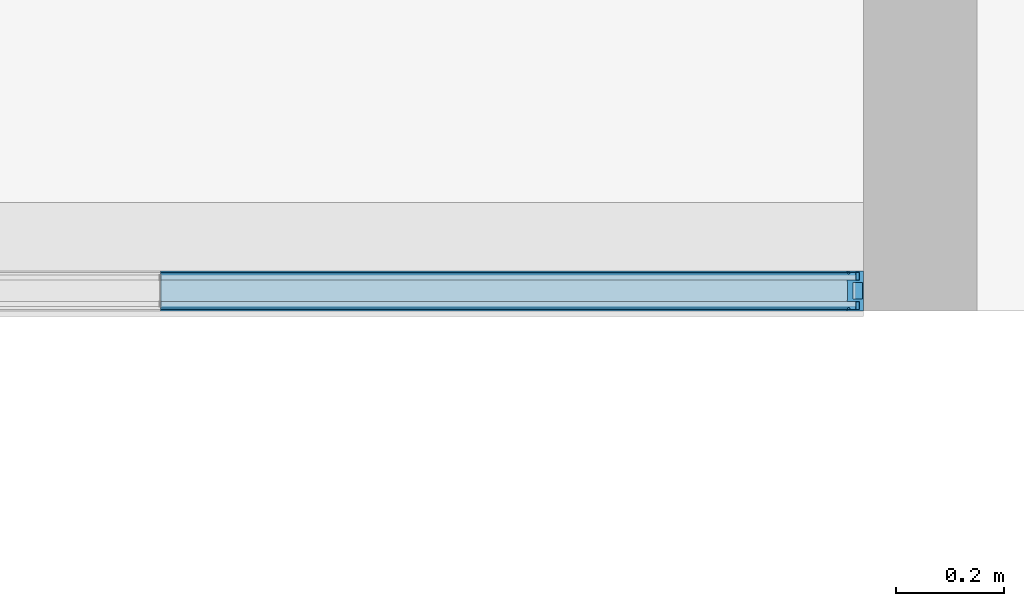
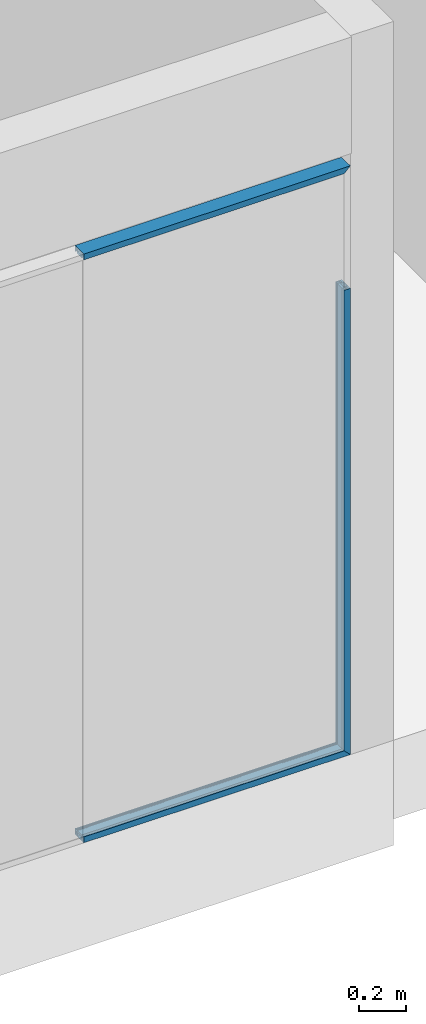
# One storey, part 46 of 387: 6 building element parts, 4 elements without a shape of their own.
"""IFC2X3 building model written with IfcOpenShell, lengths in millimetres."""

from ifc_helpers import new_model, entity, si_unit, converted_unit, derived_unit, money_unit, direction, frame, origin_with_axes, place, context, subcontext, project, spatial, faceted_brep, source, transform, mapped, material, type_object, element, aggregate, save


model = new_model("IFC2X3")

# Units and contexts
model_context = context("Model", 3, precision=0.01, world=origin_with_axes(), true_north=direction((0.0, 1.0)))
body_context = subcontext(model_context, "Body", "Model", "MODEL_VIEW")
ifc_project = project(units=[si_unit("LENGTHUNIT", "METRE", prefix="MILLI"), si_unit("AREAUNIT", "SQUARE_METRE"), si_unit("VOLUMEUNIT", "CUBIC_METRE"), converted_unit("PLANEANGLEUNIT", "DEGREE", entity("IfcPlaneAngleMeasure", 0.0174532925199), si_unit("PLANEANGLEUNIT", "RADIAN"), dimensions=[0, 0, 0, 0, 0, 0, 0]), si_unit("SOLIDANGLEUNIT", "STERADIAN"), money_unit("EUR"), converted_unit("TIMEUNIT", "Year", entity("IfcTimeMeasure", 31556926.0), si_unit("TIMEUNIT", "SECOND"), dimensions=[0, 0, 1, 0, 0, 0, 0]), si_unit("MASSUNIT", "GRAM", prefix="KILO"), si_unit("THERMODYNAMICTEMPERATUREUNIT", "DEGREE_CELSIUS"), si_unit("LUMINOUSINTENSITYUNIT", "LUMEN"), si_unit("ENERGYUNIT", "JOULE", prefix="MEGA"), derived_unit("THERMALCONDUCTANCEUNIT", [(si_unit("POWERUNIT", "WATT"), 1), (si_unit("LENGTHUNIT", "METRE"), -1), (si_unit("THERMODYNAMICTEMPERATUREUNIT", "KELVIN"), -1)]), derived_unit("SPECIFICHEATCAPACITYUNIT", [(si_unit("ENERGYUNIT", "JOULE"), 1), (si_unit("MASSUNIT", "GRAM", prefix="KILO"), -1), (si_unit("THERMODYNAMICTEMPERATUREUNIT", "KELVIN"), -1)]), derived_unit("MASSDENSITYUNIT", [(si_unit("MASSUNIT", "GRAM", prefix="KILO"), 1), (si_unit("VOLUMEUNIT", "CUBIC_METRE"), -1)])], contexts=[model_context])

# Site, building, storey
site_placement = place(None, origin_with_axes())
site = spatial("IfcSite", under=ifc_project, at=site_placement, Name="Puškini 31, Narva", CompositionType="ELEMENT")
building_placement = place(site_placement, origin_with_axes())
building = spatial("IfcBuilding", under=site, at=building_placement, Name="Narva Riigigümnaasium", CompositionType="ELEMENT")
storey_placement = place(building_placement, frame((0.0, 0.0, 2640.0), z_axis=(0.0, 0.0, 1.0), x_axis=(1.0, 0.0, 0.0)))
storey = spatial("IfcBuildingStorey", under=building, at=storey_placement, Name="2.korrus +2.64", CompositionType="ELEMENT", Elevation=2640.0)

# Curtain wall, members, building element parts
curtain_wall_type = type_object("IfcCurtainWallType", Name="Curtain Wall Type", PredefinedType="NOTDEFINED")
curtain_wall_placement = place(storey_placement, frame((44841.2500007, 163537.000002, -0.000124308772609), z_axis=(0.0, 0.0, 1.0), x_axis=(1.0, 0.0, 0.0)))
curtain_wall = element("IfcCurtainWall", 1, at=curtain_wall_placement, inside=storey, type_object=curtain_wall_type, Name="G-SKLF-49")
member_type = type_object("IfcMemberType", Name="Boundary Frame 30 x 37", PredefinedType="MULLION")
member_1_placement = place(curtain_wall_placement, frame((648.750002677, 0.0, 0.0), z_axis=(0.0, 0.0, 1.0), x_axis=(-1.0, 0.0, 0.0)))
member_1 = element("IfcMember", 2, at=member_1_placement, type_object=member_type, Name="G-SKLF-65-raam", ObjectType="MULLION")
ifc_material_1 = material(Name="Klaasvill")
shared_shape_1 = source(origin_with_axes(), body_context, "Body", "Brep", [
    faceted_brep([(-13.8499999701, 20.000000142, 13.8499999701), (-7.49999990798, 20.000000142, 7.49999990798), (-7.49999990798, 20.000000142, 2400.00000477), (-13.8499999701, 20.000000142, 2400.00000477), (-13.8499999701, 34.0161444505, 13.8499999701), (-7.49999990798, 34.0161444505, 7.49999990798), (-7.49999990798, 34.0161444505, 2400.00000477), (-13.8499999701, 34.0161444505, 2400.00000477)], [[[0, 1, 2, 3]], [[1, 0, 4, 5]], [[1, 5, 6, 2]], [[2, 6, 7, 3]], [[4, 0, 3, 7]], [[5, 4, 7, 6]]]),
    faceted_brep([(-25.004489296, 32.0307503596, 25.004489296), (-24.987414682, 34.0161444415, 24.987414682), (-24.987414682, 34.0161444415, 2400.00000477), (-25.004489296, 32.0307503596, 2400.00000477), (-25.742237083, 31.2930025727, 25.742237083), (-26.7500193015, 31.0229681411, 26.7500193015), (-27.75780152, 31.2930025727, 27.75780152), (-28.4955493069, 32.0307503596, 28.4955493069), (-28.7655837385, 33.0385325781, 28.7655837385), (-28.5126239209, 34.0161444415, 28.5126239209), (-28.5126239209, 34.0161444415, 2400.00000477), (-28.7655837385, 33.0385325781, 2400.00000477), (-28.4955493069, 32.0307503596, 2400.00000477), (-27.75780152, 31.2930025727, 2400.00000477), (-26.7500193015, 31.0229681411, 2400.00000477), (-25.742237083, 31.2930025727, 2400.00000477)], [[[0, 1, 2, 3]], [[1, 0, 4, 5, 6, 7, 8, 9]], [[1, 9, 10, 2]], [[2, 10, 11, 12, 13, 14, 15, 3]], [[4, 0, 3, 15]], [[5, 4, 15, 14]], [[6, 5, 14, 13]], [[7, 6, 13, 12]], [[8, 7, 12, 11]], [[9, 8, 11, 10]]]),
    faceted_brep([(-7.49999990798, -34.0161445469, 7.49999990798), (-7.49999990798, -19.9999997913, 7.49999990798), (-7.49999990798, -19.9999997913, 2400.00000477), (-7.49999990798, -34.0161445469, 2400.00000477), (-13.8499999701, -34.0161445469, 13.8499999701), (-13.8499999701, -19.9999997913, 13.8499999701), (-13.8499999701, -19.9999997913, 2400.00000477), (-13.8499999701, -34.0161445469, 2400.00000477)], [[[0, 1, 2, 3]], [[1, 0, 4, 5]], [[1, 5, 6, 2]], [[2, 6, 7, 3]], [[4, 0, 3, 7]], [[5, 4, 7, 6]]]),
    faceted_brep([(-24.987414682, -34.0161444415, 24.987414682), (-25.004489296, -32.0307503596, 25.004489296), (-25.004489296, -32.0307503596, 2400.00000477), (-24.987414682, -34.0161444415, 2400.00000477), (-28.5126239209, -34.0161444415, 28.5126239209), (-28.7655837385, -33.0385325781, 28.7655837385), (-28.4955493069, -32.0307503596, 28.4955493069), (-27.75780152, -31.2930025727, 27.75780152), (-26.7500193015, -31.0229681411, 26.7500193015), (-25.742237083, -31.2930025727, 25.742237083), (-25.742237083, -31.2930025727, 2400.00000477), (-26.7500193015, -31.0229681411, 2400.00000477), (-27.75780152, -31.2930025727, 2400.00000477), (-28.4955493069, -32.0307503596, 2400.00000477), (-28.7655837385, -33.0385325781, 2400.00000477), (-28.5126239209, -34.0161444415, 2400.00000477)], [[[0, 1, 2, 3]], [[1, 0, 4, 5, 6, 7, 8, 9]], [[1, 9, 10, 2]], [[2, 10, 11, 12, 13, 14, 15, 3]], [[4, 0, 3, 15]], [[5, 4, 15, 14]], [[6, 5, 14, 13]], [[7, 6, 13, 12]], [[8, 7, 12, 11]], [[9, 8, 11, 10]]]),
])
building_element_part_1_placement = place(member_1_placement, origin_with_axes())
building_element_part_1 = element("IfcBuildingElementPart", 3, at=building_element_part_1_placement, material=ifc_material_1, Name="Klaasvill", context=body_context, shape_type="MappedRepresentation", body=[
    mapped(shared_shape_1, transform((0.0, 0.0, 0.0), x_axis=(-1.0, 0.0, 0.0), y_axis=(0.0, -1.0, 0.0), z_axis=(0.0, 0.0, 1.0))),
])
ifc_material_2 = material(Name="Teras RAL7012")
shared_shape_2 = source(origin_with_axes(), body_context, "Body", "Brep", [
    faceted_brep([(-29.5999996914, -17.0000000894, 29.5999996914), (0.0, -17.0000000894, 0.0), (0.0, -17.0000000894, 2400.00000477), (-29.5999996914, -17.0000000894, 2400.00000477), (-29.5999996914, 17.0000000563, 29.5999996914), (0.0, 17.0000000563, 0.0), (-1.9999999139, 15.0000001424, 1.9999999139), (-18.7999996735, 15.0000001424, 18.7999996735), (-18.7999996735, -15.0000001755, 18.7999996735), (-1.9999999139, -15.0000001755, 1.9999999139), (0.0, 17.0000000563, 2400.00000477), (-29.5999996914, 17.0000000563, 2400.00000477), (-1.9999999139, 15.0000001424, 2400.00000477), (-1.9999999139, -15.0000001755, 2400.00000477), (-18.7999996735, -15.0000001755, 2400.00000477), (-18.7999996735, 15.0000001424, 2400.00000477)], [[[0, 1, 2, 3]], [[1, 0, 4, 5], [6, 7, 8, 9]], [[1, 5, 10, 2]], [[2, 10, 11, 3], [12, 13, 14, 15]], [[4, 0, 3, 11]], [[5, 4, 11, 10]], [[7, 6, 12, 15]], [[8, 7, 15, 14]], [[9, 8, 14, 13]], [[6, 9, 13, 12]]]),
    faceted_brep([(-29.5999996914, 17.0000000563, 29.5999996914), (0.0, 17.0, 0.0), (0.0, 17.0, 2400.00000477), (-29.5999996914, 17.0000000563, 2400.00000477), (-30.0000193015, 17.0, 30.0000193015), (-30.0000193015, 20.0, 30.0000193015), (-13.8499999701, 20.000000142, 13.8499999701), (-7.49999999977, 20.0, 7.49999999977), (-7.49999999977, 34.0161444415, 7.49999999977), (-13.8499999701, 34.0161444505, 13.8499999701), (-24.987414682, 34.0161444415, 24.987414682), (-28.5126239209, 34.0161444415, 28.5126239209), (-30.0000193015, 34.0161444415, 30.0000193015), (-30.0000193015, 37.0, 30.0000193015), (0.0, 37.0, 0.0), (0.0, 37.0, 2400.00000477), (-30.0000193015, 37.0, 2400.00000477), (-30.0000193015, 34.0161444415, 2400.00000477), (-28.5126239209, 34.0161444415, 2400.00000477), (-24.987414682, 34.0161444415, 2400.00000477), (-13.8499999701, 34.0161444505, 2400.00000477), (-7.49999999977, 34.0161444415, 2400.00000477), (-7.49999999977, 20.0, 2400.00000477), (-13.8499999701, 20.000000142, 2400.00000477), (-30.0000193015, 20.0, 2400.00000477), (-30.0000193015, 17.0, 2400.00000477)], [[[0, 1, 2, 3]], [[1, 0, 4, 5, 6, 7, 8, 9, 10, 11, 12, 13, 14]], [[1, 14, 15, 2]], [[2, 15, 16, 17, 18, 19, 20, 21, 22, 23, 24, 25, 3]], [[4, 0, 3, 25]], [[5, 4, 25, 24]], [[6, 5, 24, 23]], [[7, 6, 23, 22]], [[8, 7, 22, 21]], [[9, 8, 21, 20]], [[10, 9, 20, 19]], [[11, 10, 19, 18]], [[12, 11, 18, 17]], [[13, 12, 17, 16]], [[14, 13, 16, 15]]]),
    faceted_brep([(0.0, -37.0, 0.0), (0.0, -17.0, 0.0), (0.0, -17.0, 2400.00000477), (0.0, -37.0, 2400.00000477), (-30.0000193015, -37.0, 30.0000193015), (-30.0000193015, -34.0161444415, 30.0000193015), (-28.5126239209, -34.0161444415, 28.5126239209), (-24.987414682, -34.0161444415, 24.987414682), (-13.8499999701, -34.0161445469, 13.8499999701), (-7.49999999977, -34.0161444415, 7.49999999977), (-7.49999999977, -20.0, 7.49999999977), (-13.8499999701, -19.9999997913, 13.8499999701), (-30.0000193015, -20.0, 30.0000193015), (-30.0000193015, -17.0, 30.0000193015), (-29.5999996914, -17.0000000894, 29.5999996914), (-29.5999996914, -17.0000000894, 2400.00000477), (-30.0000193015, -17.0, 2400.00000477), (-30.0000193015, -20.0, 2400.00000477), (-13.8499999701, -19.9999997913, 2400.00000477), (-7.49999999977, -20.0, 2400.00000477), (-7.49999999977, -34.0161444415, 2400.00000477), (-13.8499999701, -34.0161445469, 2400.00000477), (-24.987414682, -34.0161444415, 2400.00000477), (-28.5126239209, -34.0161444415, 2400.00000477), (-30.0000193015, -34.0161444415, 2400.00000477), (-30.0000193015, -37.0, 2400.00000477)], [[[0, 1, 2, 3]], [[1, 0, 4, 5, 6, 7, 8, 9, 10, 11, 12, 13, 14]], [[1, 14, 15, 2]], [[2, 15, 16, 17, 18, 19, 20, 21, 22, 23, 24, 25, 3]], [[4, 0, 3, 25]], [[5, 4, 25, 24]], [[6, 5, 24, 23]], [[7, 6, 23, 22]], [[8, 7, 22, 21]], [[9, 8, 21, 20]], [[10, 9, 20, 19]], [[11, 10, 19, 18]], [[12, 11, 18, 17]], [[13, 12, 17, 16]], [[14, 13, 16, 15]]]),
])
building_element_part_2_placement = place(member_1_placement, origin_with_axes())
building_element_part_2 = element("IfcBuildingElementPart", 4, at=building_element_part_2_placement, material=ifc_material_2, Name="Teras RAL7012", context=body_context, shape_type="MappedRepresentation", body=[
    mapped(shared_shape_2, transform((0.0, 0.0, 0.0), x_axis=(-1.0, 0.0, 0.0), y_axis=(0.0, -1.0, 0.0), z_axis=(0.0, 0.0, 1.0))),
])
aggregate(member_1, [building_element_part_1, building_element_part_2])
member_2_placement = place(curtain_wall_placement, frame((-648.750002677, 0.0, 0.0), z_axis=(1.0, 0.0, 0.0), x_axis=(0.0, 0.0, 1.0)))
member_2 = element("IfcMember", 5, at=member_2_placement, type_object=member_type, Name="G-SKLF-64-raam", ObjectType="MULLION")
shared_shape_3 = source(origin_with_axes(), body_context, "Body", "Brep", [
    faceted_brep([(-7.49999990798, 20.000000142, 0.0), (-7.49999990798, 20.000000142, 1290.00000009), (-13.8499999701, 20.000000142, 1283.65000003), (-13.8499999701, 20.000000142, 0.0), (-7.49999990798, 34.0161444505, 0.0), (-7.49999990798, 34.0161444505, 1290.00000009), (-13.8499999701, 34.0161444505, 1283.65000003), (-13.8499999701, 34.0161444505, 0.0)], [[[0, 1, 2, 3]], [[4, 5, 1, 0]], [[1, 5, 6, 2]], [[3, 2, 6, 7]], [[0, 3, 7, 4]], [[7, 6, 5, 4]]]),
    faceted_brep([(-24.987414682, 34.0161444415, 0.0), (-24.987414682, 34.0161444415, 1272.51258532), (-25.004489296, 32.0307503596, 1272.4955107), (-25.004489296, 32.0307503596, 0.0), (-28.5126239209, 34.0161444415, 0.0), (-28.5126239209, 34.0161444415, 1268.98737608), (-28.7655837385, 33.0385325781, 1268.73441626), (-28.4955493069, 32.0307503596, 1269.00445069), (-27.75780152, 31.2930025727, 1269.74219848), (-26.7500193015, 31.0229681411, 1270.7499807), (-25.742237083, 31.2930025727, 1271.75776292), (-25.742237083, 31.2930025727, 0.0), (-26.7500193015, 31.0229681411, 0.0), (-27.75780152, 31.2930025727, 0.0), (-28.4955493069, 32.0307503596, 0.0), (-28.7655837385, 33.0385325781, 0.0)], [[[0, 1, 2, 3]], [[4, 5, 1, 0]], [[1, 5, 6, 7, 8, 9, 10, 2]], [[3, 2, 10, 11]], [[0, 3, 11, 12, 13, 14, 15, 4]], [[15, 6, 5, 4]], [[14, 7, 6, 15]], [[13, 8, 7, 14]], [[12, 9, 8, 13]], [[11, 10, 9, 12]]]),
    faceted_brep([(-7.49999990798, -19.9999997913, 0.0), (-7.49999990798, -19.9999997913, 1290.00000009), (-7.49999990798, -34.0161445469, 1290.00000009), (-7.49999990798, -34.0161445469, 0.0), (-13.8499999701, -19.9999997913, 0.0), (-13.8499999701, -19.9999997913, 1283.65000003), (-13.8499999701, -34.0161445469, 1283.65000003), (-13.8499999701, -34.0161445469, 0.0)], [[[0, 1, 2, 3]], [[4, 5, 1, 0]], [[1, 5, 6, 2]], [[3, 2, 6, 7]], [[0, 3, 7, 4]], [[7, 6, 5, 4]]]),
    faceted_brep([(-25.004489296, -32.0307503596, 0.0), (-25.004489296, -32.0307503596, 1272.4955107), (-24.987414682, -34.0161444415, 1272.51258532), (-24.987414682, -34.0161444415, 0.0), (-25.742237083, -31.2930025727, 0.0), (-25.742237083, -31.2930025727, 1271.75776292), (-26.7500193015, -31.0229681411, 1270.7499807), (-27.75780152, -31.2930025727, 1269.74219848), (-28.4955493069, -32.0307503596, 1269.00445069), (-28.7655837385, -33.0385325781, 1268.73441626), (-28.5126239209, -34.0161444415, 1268.98737608), (-28.5126239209, -34.0161444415, 0.0), (-28.7655837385, -33.0385325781, 0.0), (-28.4955493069, -32.0307503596, 0.0), (-27.75780152, -31.2930025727, 0.0), (-26.7500193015, -31.0229681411, 0.0)], [[[0, 1, 2, 3]], [[4, 5, 1, 0]], [[1, 5, 6, 7, 8, 9, 10, 2]], [[3, 2, 10, 11]], [[0, 3, 11, 12, 13, 14, 15, 4]], [[15, 6, 5, 4]], [[14, 7, 6, 15]], [[13, 8, 7, 14]], [[12, 9, 8, 13]], [[11, 10, 9, 12]]]),
])
building_element_part_3_placement = place(member_2_placement, origin_with_axes())
building_element_part_3 = element("IfcBuildingElementPart", 6, at=building_element_part_3_placement, material=ifc_material_1, Name="Klaasvill", context=body_context, shape_type="MappedRepresentation", body=[
    mapped(shared_shape_3, transform((0.0, 0.0, 0.0), x_axis=(-1.0, 0.0, 0.0), y_axis=(0.0, -1.0, 0.0), z_axis=(0.0, 0.0, 1.0))),
])
shared_shape_4 = source(origin_with_axes(), body_context, "Body", "Brep", [
    faceted_brep([(0.0, -17.0000000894, 0.0), (0.0, -17.0000000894, 1297.5), (-29.5999996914, -17.0000000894, 1267.90000031), (-29.5999996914, -17.0000000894, 0.0), (0.0, 17.0000000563, 0.0), (0.0, 17.0000000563, 1297.5), (-29.5999996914, 17.0000000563, 1267.90000031), (-1.9999999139, 15.0000001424, 1295.50000009), (-1.9999999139, -15.0000001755, 1295.50000009), (-18.7999996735, -15.0000001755, 1278.70000033), (-18.7999996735, 15.0000001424, 1278.70000033), (-29.5999996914, 17.0000000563, 0.0), (-1.9999999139, 15.0000001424, 0.0), (-18.7999996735, 15.0000001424, 0.0), (-18.7999996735, -15.0000001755, 0.0), (-1.9999999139, -15.0000001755, 0.0)], [[[0, 1, 2, 3]], [[4, 5, 1, 0]], [[1, 5, 6, 2], [7, 8, 9, 10]], [[3, 2, 6, 11]], [[0, 3, 11, 4], [12, 13, 14, 15]], [[11, 6, 5, 4]], [[15, 8, 7, 12]], [[14, 9, 8, 15]], [[13, 10, 9, 14]], [[12, 7, 10, 13]]]),
    faceted_brep([(0.0, 17.0, 0.0), (0.0, 17.0, 1297.5), (-29.5999996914, 17.0000000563, 1267.90000031), (-29.5999996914, 17.0000000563, 0.0), (0.0, 37.0, 0.0), (0.0, 37.0, 1297.5), (-30.0000193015, 37.0, 1267.4999807), (-30.0000193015, 34.0161444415, 1267.4999807), (-28.5126239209, 34.0161444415, 1268.98737608), (-24.987414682, 34.0161444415, 1272.51258532), (-13.8499999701, 34.0161444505, 1283.65000003), (-7.49999999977, 34.0161444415, 1290.0), (-7.49999999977, 20.0, 1290.0), (-13.8499999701, 20.000000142, 1283.65000003), (-30.0000193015, 20.0, 1267.4999807), (-30.0000193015, 17.0, 1267.4999807), (-30.0000193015, 17.0, 0.0), (-30.0000193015, 20.0, 0.0), (-13.8499999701, 20.000000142, 0.0), (-7.49999999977, 20.0, 0.0), (-7.49999999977, 34.0161444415, 0.0), (-13.8499999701, 34.0161444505, 0.0), (-24.987414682, 34.0161444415, 0.0), (-28.5126239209, 34.0161444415, 0.0), (-30.0000193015, 34.0161444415, 0.0), (-30.0000193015, 37.0, 0.0)], [[[0, 1, 2, 3]], [[4, 5, 1, 0]], [[1, 5, 6, 7, 8, 9, 10, 11, 12, 13, 14, 15, 2]], [[3, 2, 15, 16]], [[0, 3, 16, 17, 18, 19, 20, 21, 22, 23, 24, 25, 4]], [[25, 6, 5, 4]], [[24, 7, 6, 25]], [[23, 8, 7, 24]], [[22, 9, 8, 23]], [[21, 10, 9, 22]], [[20, 11, 10, 21]], [[19, 12, 11, 20]], [[18, 13, 12, 19]], [[17, 14, 13, 18]], [[16, 15, 14, 17]]]),
    faceted_brep([(0.0, -17.0, 0.0), (0.0, -17.0, 1297.5), (0.0, -37.0, 1297.5), (0.0, -37.0, 0.0), (-29.5999996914, -17.0000000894, 0.0), (-29.5999996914, -17.0000000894, 1267.90000031), (-30.0000193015, -17.0, 1267.4999807), (-30.0000193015, -20.0, 1267.4999807), (-13.8499999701, -19.9999997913, 1283.65000003), (-7.49999999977, -20.0, 1290.0), (-7.49999999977, -34.0161444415, 1290.0), (-13.8499999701, -34.0161445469, 1283.65000003), (-24.987414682, -34.0161444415, 1272.51258532), (-28.5126239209, -34.0161444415, 1268.98737608), (-30.0000193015, -34.0161444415, 1267.4999807), (-30.0000193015, -37.0, 1267.4999807), (-30.0000193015, -37.0, 0.0), (-30.0000193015, -34.0161444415, 0.0), (-28.5126239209, -34.0161444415, 0.0), (-24.987414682, -34.0161444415, 0.0), (-13.8499999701, -34.0161445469, 0.0), (-7.49999999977, -34.0161444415, 0.0), (-7.49999999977, -20.0, 0.0), (-13.8499999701, -19.9999997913, 0.0), (-30.0000193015, -20.0, 0.0), (-30.0000193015, -17.0, 0.0)], [[[0, 1, 2, 3]], [[4, 5, 1, 0]], [[1, 5, 6, 7, 8, 9, 10, 11, 12, 13, 14, 15, 2]], [[3, 2, 15, 16]], [[0, 3, 16, 17, 18, 19, 20, 21, 22, 23, 24, 25, 4]], [[25, 6, 5, 4]], [[24, 7, 6, 25]], [[23, 8, 7, 24]], [[22, 9, 8, 23]], [[21, 10, 9, 22]], [[20, 11, 10, 21]], [[19, 12, 11, 20]], [[18, 13, 12, 19]], [[17, 14, 13, 18]], [[16, 15, 14, 17]]]),
])
building_element_part_4_placement = place(member_2_placement, origin_with_axes())
building_element_part_4 = element("IfcBuildingElementPart", 7, at=building_element_part_4_placement, material=ifc_material_2, Name="Teras RAL7012", context=body_context, shape_type="MappedRepresentation", body=[
    mapped(shared_shape_4, transform((0.0, 0.0, 0.0), x_axis=(-1.0, 0.0, 0.0), y_axis=(0.0, -1.0, 0.0), z_axis=(0.0, 0.0, 1.0))),
])
aggregate(member_2, [building_element_part_3, building_element_part_4])
member_3_placement = place(curtain_wall_placement, frame((648.750002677, 0.0, 3030.00000658), z_axis=(-1.0, 0.0, 0.0), x_axis=(0.0, 0.0, -1.0)))
member_3 = element("IfcMember", 8, at=member_3_placement, type_object=member_type, Name="G-SKLF-67-raam", ObjectType="MULLION")
aggregate(curtain_wall, [member_3, member_1, member_2])
shared_shape_5 = source(origin_with_axes(), body_context, "Body", "Brep", [
    faceted_brep([(-13.8499999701, 20.000000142, 13.8499999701), (-7.49999990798, 20.000000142, 7.49999990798), (-7.49999990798, 20.000000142, 1297.50000535), (-13.8499999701, 20.000000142, 1297.50000535), (-13.8499999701, 34.0161444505, 13.8499999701), (-7.49999990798, 34.0161444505, 7.49999990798), (-7.49999990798, 34.0161444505, 1297.50000535), (-13.8499999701, 34.0161444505, 1297.50000535)], [[[0, 1, 2, 3]], [[1, 0, 4, 5]], [[1, 5, 6, 2]], [[2, 6, 7, 3]], [[4, 0, 3, 7]], [[5, 4, 7, 6]]]),
    faceted_brep([(-25.004489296, 32.0307503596, 25.004489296), (-24.987414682, 34.0161444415, 24.987414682), (-24.987414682, 34.0161444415, 1297.50000535), (-25.004489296, 32.0307503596, 1297.50000535), (-25.742237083, 31.2930025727, 25.742237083), (-26.7500193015, 31.0229681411, 26.7500193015), (-27.75780152, 31.2930025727, 27.75780152), (-28.4955493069, 32.0307503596, 28.4955493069), (-28.7655837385, 33.0385325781, 28.7655837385), (-28.5126239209, 34.0161444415, 28.5126239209), (-28.5126239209, 34.0161444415, 1297.50000535), (-28.7655837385, 33.0385325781, 1297.50000535), (-28.4955493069, 32.0307503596, 1297.50000535), (-27.75780152, 31.2930025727, 1297.50000535), (-26.7500193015, 31.0229681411, 1297.50000535), (-25.742237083, 31.2930025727, 1297.50000535)], [[[0, 1, 2, 3]], [[1, 0, 4, 5, 6, 7, 8, 9]], [[1, 9, 10, 2]], [[2, 10, 11, 12, 13, 14, 15, 3]], [[4, 0, 3, 15]], [[5, 4, 15, 14]], [[6, 5, 14, 13]], [[7, 6, 13, 12]], [[8, 7, 12, 11]], [[9, 8, 11, 10]]]),
    faceted_brep([(-7.49999990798, -34.0161445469, 7.49999990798), (-7.49999990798, -19.9999997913, 7.49999990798), (-7.49999990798, -19.9999997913, 1297.50000535), (-7.49999990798, -34.0161445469, 1297.50000535), (-13.8499999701, -34.0161445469, 13.8499999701), (-13.8499999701, -19.9999997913, 13.8499999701), (-13.8499999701, -19.9999997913, 1297.50000535), (-13.8499999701, -34.0161445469, 1297.50000535)], [[[0, 1, 2, 3]], [[1, 0, 4, 5]], [[1, 5, 6, 2]], [[2, 6, 7, 3]], [[4, 0, 3, 7]], [[5, 4, 7, 6]]]),
    faceted_brep([(-24.987414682, -34.0161444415, 24.987414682), (-25.004489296, -32.0307503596, 25.004489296), (-25.004489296, -32.0307503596, 1297.50000535), (-24.987414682, -34.0161444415, 1297.50000535), (-28.5126239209, -34.0161444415, 28.5126239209), (-28.7655837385, -33.0385325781, 28.7655837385), (-28.4955493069, -32.0307503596, 28.4955493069), (-27.75780152, -31.2930025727, 27.75780152), (-26.7500193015, -31.0229681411, 26.7500193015), (-25.742237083, -31.2930025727, 25.742237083), (-25.742237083, -31.2930025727, 1297.50000535), (-26.7500193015, -31.0229681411, 1297.50000535), (-27.75780152, -31.2930025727, 1297.50000535), (-28.4955493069, -32.0307503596, 1297.50000535), (-28.7655837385, -33.0385325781, 1297.50000535), (-28.5126239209, -34.0161444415, 1297.50000535)], [[[0, 1, 2, 3]], [[1, 0, 4, 5, 6, 7, 8, 9]], [[1, 9, 10, 2]], [[2, 10, 11, 12, 13, 14, 15, 3]], [[4, 0, 3, 15]], [[5, 4, 15, 14]], [[6, 5, 14, 13]], [[7, 6, 13, 12]], [[8, 7, 12, 11]], [[9, 8, 11, 10]]]),
])
building_element_part_5_placement = place(member_3_placement, origin_with_axes())
building_element_part_5 = element("IfcBuildingElementPart", 9, at=building_element_part_5_placement, material=ifc_material_1, Name="Klaasvill", context=body_context, shape_type="MappedRepresentation", body=[
    mapped(shared_shape_5, transform((0.0, 0.0, 0.0), x_axis=(-1.0, 0.0, 0.0), y_axis=(0.0, -1.0, 0.0), z_axis=(0.0, 0.0, 1.0))),
])
shared_shape_6 = source(origin_with_axes(), body_context, "Body", "Brep", [
    faceted_brep([(-29.5999996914, -17.0000000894, 29.5999996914), (0.0, -17.0000000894, 0.0), (0.0, -17.0000000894, 1297.50000535), (-29.5999996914, -17.0000000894, 1297.50000535), (-29.5999996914, 17.0000000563, 29.5999996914), (0.0, 17.0000000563, 0.0), (-1.9999999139, 15.0000001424, 1.9999999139), (-18.7999996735, 15.0000001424, 18.7999996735), (-18.7999996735, -15.0000001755, 18.7999996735), (-1.9999999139, -15.0000001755, 1.9999999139), (0.0, 17.0000000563, 1297.50000535), (-29.5999996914, 17.0000000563, 1297.50000535), (-1.9999999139, 15.0000001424, 1297.50000535), (-1.9999999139, -15.0000001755, 1297.50000535), (-18.7999996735, -15.0000001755, 1297.50000535), (-18.7999996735, 15.0000001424, 1297.50000535)], [[[0, 1, 2, 3]], [[1, 0, 4, 5], [6, 7, 8, 9]], [[1, 5, 10, 2]], [[2, 10, 11, 3], [12, 13, 14, 15]], [[4, 0, 3, 11]], [[5, 4, 11, 10]], [[7, 6, 12, 15]], [[8, 7, 15, 14]], [[9, 8, 14, 13]], [[6, 9, 13, 12]]]),
    faceted_brep([(-29.5999996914, 17.0000000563, 29.5999996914), (0.0, 17.0, 0.0), (0.0, 17.0, 1297.50000535), (-29.5999996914, 17.0000000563, 1297.50000535), (-30.0000193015, 17.0, 30.0000193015), (-30.0000193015, 20.0, 30.0000193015), (-13.8499999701, 20.000000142, 13.8499999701), (-7.49999999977, 20.0, 7.49999999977), (-7.49999999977, 34.0161444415, 7.49999999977), (-13.8499999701, 34.0161444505, 13.8499999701), (-24.987414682, 34.0161444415, 24.987414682), (-28.5126239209, 34.0161444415, 28.5126239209), (-30.0000193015, 34.0161444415, 30.0000193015), (-30.0000193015, 37.0, 30.0000193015), (0.0, 37.0, 0.0), (0.0, 37.0, 1297.50000535), (-30.0000193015, 37.0, 1297.50000535), (-30.0000193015, 34.0161444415, 1297.50000535), (-28.5126239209, 34.0161444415, 1297.50000535), (-24.987414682, 34.0161444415, 1297.50000535), (-13.8499999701, 34.0161444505, 1297.50000535), (-7.49999999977, 34.0161444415, 1297.50000535), (-7.49999999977, 20.0, 1297.50000535), (-13.8499999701, 20.000000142, 1297.50000535), (-30.0000193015, 20.0, 1297.50000535), (-30.0000193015, 17.0, 1297.50000535)], [[[0, 1, 2, 3]], [[1, 0, 4, 5, 6, 7, 8, 9, 10, 11, 12, 13, 14]], [[1, 14, 15, 2]], [[2, 15, 16, 17, 18, 19, 20, 21, 22, 23, 24, 25, 3]], [[4, 0, 3, 25]], [[5, 4, 25, 24]], [[6, 5, 24, 23]], [[7, 6, 23, 22]], [[8, 7, 22, 21]], [[9, 8, 21, 20]], [[10, 9, 20, 19]], [[11, 10, 19, 18]], [[12, 11, 18, 17]], [[13, 12, 17, 16]], [[14, 13, 16, 15]]]),
    faceted_brep([(0.0, -37.0, 0.0), (0.0, -17.0, 0.0), (0.0, -17.0, 1297.50000535), (0.0, -37.0, 1297.50000535), (-30.0000193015, -37.0, 30.0000193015), (-30.0000193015, -34.0161444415, 30.0000193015), (-28.5126239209, -34.0161444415, 28.5126239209), (-24.987414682, -34.0161444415, 24.987414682), (-13.8499999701, -34.0161445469, 13.8499999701), (-7.49999999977, -34.0161444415, 7.49999999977), (-7.49999999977, -20.0, 7.49999999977), (-13.8499999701, -19.9999997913, 13.8499999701), (-30.0000193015, -20.0, 30.0000193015), (-30.0000193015, -17.0, 30.0000193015), (-29.5999996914, -17.0000000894, 29.5999996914), (-29.5999996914, -17.0000000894, 1297.50000535), (-30.0000193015, -17.0, 1297.50000535), (-30.0000193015, -20.0, 1297.50000535), (-13.8499999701, -19.9999997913, 1297.50000535), (-7.49999999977, -20.0, 1297.50000535), (-7.49999999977, -34.0161444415, 1297.50000535), (-13.8499999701, -34.0161445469, 1297.50000535), (-24.987414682, -34.0161444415, 1297.50000535), (-28.5126239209, -34.0161444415, 1297.50000535), (-30.0000193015, -34.0161444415, 1297.50000535), (-30.0000193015, -37.0, 1297.50000535)], [[[0, 1, 2, 3]], [[1, 0, 4, 5, 6, 7, 8, 9, 10, 11, 12, 13, 14]], [[1, 14, 15, 2]], [[2, 15, 16, 17, 18, 19, 20, 21, 22, 23, 24, 25, 3]], [[4, 0, 3, 25]], [[5, 4, 25, 24]], [[6, 5, 24, 23]], [[7, 6, 23, 22]], [[8, 7, 22, 21]], [[9, 8, 21, 20]], [[10, 9, 20, 19]], [[11, 10, 19, 18]], [[12, 11, 18, 17]], [[13, 12, 17, 16]], [[14, 13, 16, 15]]]),
])
building_element_part_6_placement = place(member_3_placement, origin_with_axes())
building_element_part_6 = element("IfcBuildingElementPart", 10, at=building_element_part_6_placement, material=ifc_material_2, Name="Teras RAL7012", context=body_context, shape_type="MappedRepresentation", body=[
    mapped(shared_shape_6, transform((0.0, 0.0, 0.0), x_axis=(-1.0, 0.0, 0.0), y_axis=(0.0, -1.0, 0.0), z_axis=(0.0, 0.0, 1.0))),
])
aggregate(member_3, [building_element_part_5, building_element_part_6])

save(model, "model.ifc")
